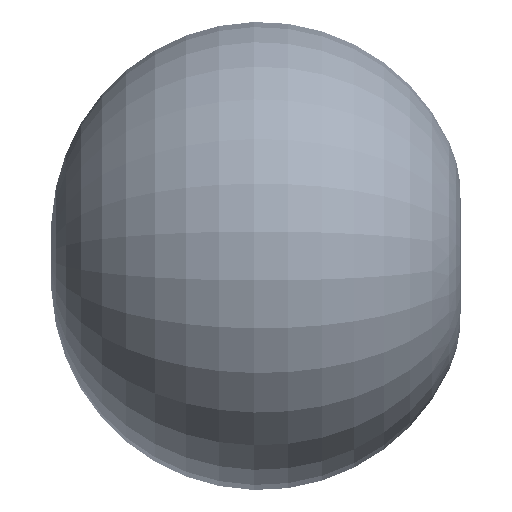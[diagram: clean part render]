
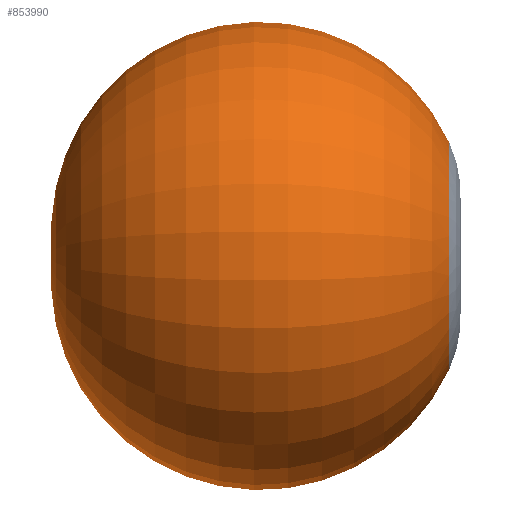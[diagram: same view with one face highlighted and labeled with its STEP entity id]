
A CAD part, left-side view. The second image highlights one B-rep face of the part: STEP entity #853990.
In plain terms, the highlighted toroidal (fillet/blend) face has major radius 217 mm and minor radius 1784.7 mm.
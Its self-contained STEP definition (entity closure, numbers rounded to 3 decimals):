
#8380 = VERTEX_POINT ( 'NONE', #1059705 ) ;
#8415 = VERTEX_POINT ( 'NONE', #1059958 ) ;
#8466 = VERTEX_POINT ( 'NONE', #1060692 ) ;
#443368 = TOROIDAL_SURFACE ( 'NONE', #443378, 217., 1784.7 ) ;
#443378 = AXIS2_PLACEMENT_3D ( 'NONE', #822835, #822851, #822879 ) ;
#652806 = ORIENTED_EDGE ( 'NONE', *, *, #1315841, .F. ) ;
#652812 = ORIENTED_EDGE ( 'NONE', *, *, #1315852, .T. ) ;
#652819 = ORIENTED_EDGE ( 'NONE', *, *, #1315889, .F. ) ;
#822632 = FACE_OUTER_BOUND ( 'NONE', #975816, .T. ) ;
#822835 = CARTESIAN_POINT ( 'NONE',  ( 0., 445., 0. ) ) ;
#822851 = DIRECTION ( 'NONE',  ( 0., -1., 0. ) ) ;
#822879 = DIRECTION ( 'NONE',  ( 0., 0., -1. ) ) ;
#853990 = ADVANCED_FACE ( 'NONE', ( #822632 ), #443368, .T. ) ;
#866982 = CIRCLE ( 'NONE', #867009, 1784.7 ) ;
#866996 = CIRCLE ( 'NONE', #867042, 1784.7 ) ;
#867009 = AXIS2_PLACEMENT_3D ( 'NONE', #1008485, #1008495, #1008506 ) ;
#867042 = AXIS2_PLACEMENT_3D ( 'NONE', #1008566, #1008577, #1008588 ) ;
#867160 = CIRCLE ( 'NONE', #867209, 971.247 ) ;
#867209 = AXIS2_PLACEMENT_3D ( 'NONE', #1008953, #1008963, #1008970 ) ;
#975816 = EDGE_LOOP ( 'NONE', ( #652806, #652812, #652819 ) ) ;
#1008485 = CARTESIAN_POINT ( 'NONE',  ( 0., 445., 217. ) ) ;
#1008495 = DIRECTION ( 'NONE',  ( 1., 0., 0. ) ) ;
#1008506 = DIRECTION ( 'NONE',  ( 0., 0., -1. ) ) ;
#1008566 = CARTESIAN_POINT ( 'NONE',  ( 0., 445., -217. ) ) ;
#1008577 = DIRECTION ( 'NONE',  ( -1., 0., 0. ) ) ;
#1008588 = DIRECTION ( 'NONE',  ( 0., 0., 1. ) ) ;
#1008953 = CARTESIAN_POINT ( 'NONE',  ( 0., -1172.488, 0. ) ) ;
#1008963 = DIRECTION ( 'NONE',  ( 0., -1., 0. ) ) ;
#1008970 = DIRECTION ( 'NONE',  ( 0., 0., -1. ) ) ;
#1059705 = CARTESIAN_POINT ( 'NONE',  ( 0., -1172.488, -971.247 ) ) ;
#1059958 = CARTESIAN_POINT ( 'NONE',  ( 0., 2216.458, 0. ) ) ;
#1060692 = CARTESIAN_POINT ( 'NONE',  ( 0., -1172.488, 971.247 ) ) ;
#1315841 = EDGE_CURVE ( 'NONE', #8415, #8466, #866982, .T. ) ;
#1315852 = EDGE_CURVE ( 'NONE', #8415, #8380, #866996, .T. ) ;
#1315889 = EDGE_CURVE ( 'NONE', #8466, #8380, #867160, .T. ) ;
